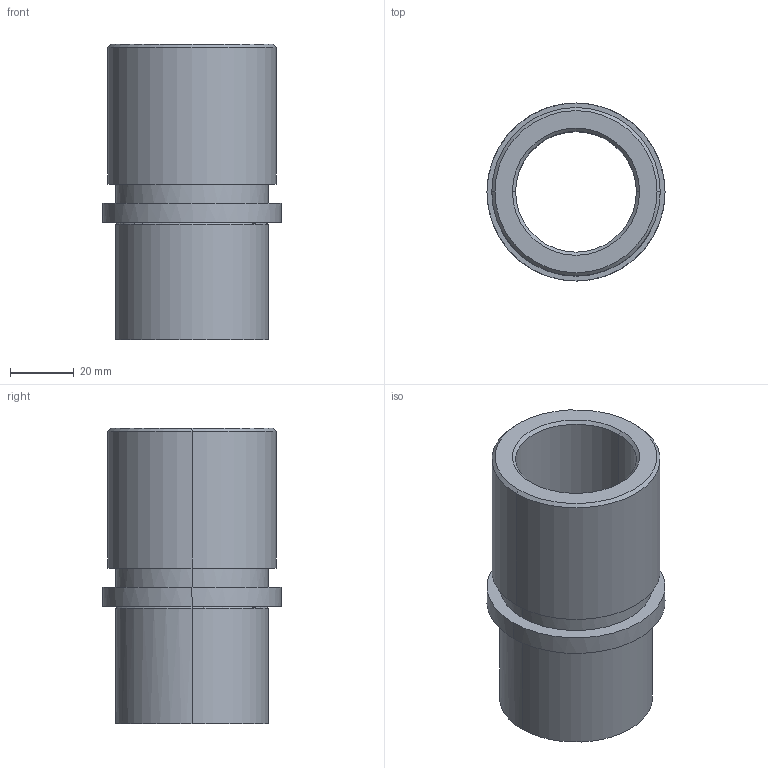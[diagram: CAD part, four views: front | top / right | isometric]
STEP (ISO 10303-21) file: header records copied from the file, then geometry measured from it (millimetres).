
FILE_DESCRIPTION(('CATIA V5 STEP Exchange'),'2;1');
FILE_NAME('C:\Users\Utente\Desktop\IO LAVORO\3D X SITO CF\X SITO\734\734-30.stp','2021-01-16T19:05:11+00:00',('none'),('none'),'CATIA Version 5 Release 20 GA (IN-10)','CATIA V5 STEP AP203','none');
FILE_SCHEMA(('CONFIG_CONTROL_DESIGN'));
Length unit declared in the file: millimetre
Products named in the file (1): 734-30
Assembly tree (1 placements, depth 2):
  734-30
    #58
Bounding box: 56 x 56 x 93 mm (x, y, z)
Volume: 83857.3 mm3; surface area: 29425.4 mm2
Topology: 1 solids, 1 shells, 25 faces, 50 edges, 30 vertices
Faces by surface type: cylinder 10, cone 6, plane 5, torus 4
Entity records: 851 total; most frequent: CARTESIAN_POINT 282, ORIENTED_EDGE 100, DIRECTION 96, AXIS2_PLACEMENT_3D 53, EDGE_CURVE 50, EDGE_LOOP 30, VERTEX_POINT 30, CIRCLE 26
